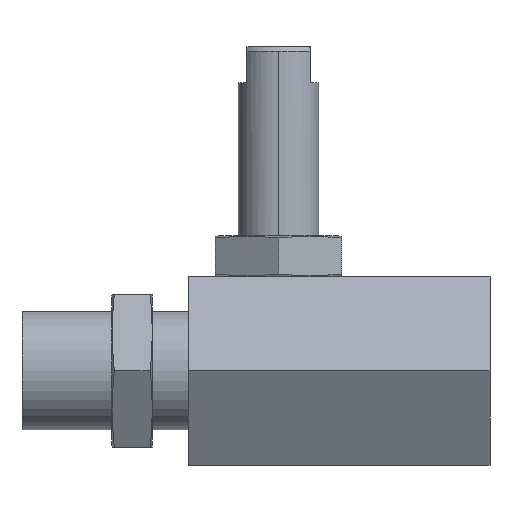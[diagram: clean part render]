
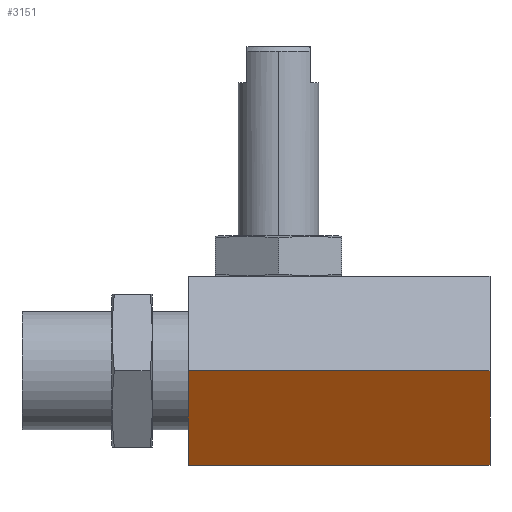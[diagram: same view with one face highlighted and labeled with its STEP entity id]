
A CAD part, left-side view. The second image highlights one B-rep face of the part: STEP entity #3151.
In plain terms, the highlighted planar face has unit normal (-0.866, 0, -0.5).
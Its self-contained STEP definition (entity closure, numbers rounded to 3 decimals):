
#124 = EDGE_LOOP ( 'NONE', ( #2351, #2350, #2349, #2348 ) ) ;
#285 = EDGE_CURVE ( 'NONE', #4343, #3990, #1416, .T. ) ;
#298 = EDGE_CURVE ( 'NONE', #4343, #4204, #1430, .T. ) ;
#302 = EDGE_CURVE ( 'NONE', #3990, #4287, #1440, .T. ) ;
#305 = EDGE_CURVE ( 'NONE', #4204, #4287, #1429, .T. ) ;
#708 = AXIS2_PLACEMENT_3D ( 'NONE', #2999, #2985, #2983 ) ;
#1000 = CARTESIAN_POINT ( 'NONE',  ( -6.062, 33.5, -10.5 ) ) ;
#1057 = CARTESIAN_POINT ( 'NONE',  ( -12.124, 0., 0. ) ) ;
#1131 = CARTESIAN_POINT ( 'NONE',  ( -6.062, 0., -10.5 ) ) ;
#1299 = CARTESIAN_POINT ( 'NONE',  ( -12.124, 33.5, 0. ) ) ;
#1416 = LINE ( 'NONE', #3887, #1417 ) ;
#1417 = VECTOR ( 'NONE', #3886, 1000. ) ;
#1429 = LINE ( 'NONE', #4052, #1446 ) ;
#1430 = LINE ( 'NONE', #3833, #1431 ) ;
#1431 = VECTOR ( 'NONE', #3830, 1000. ) ;
#1440 = LINE ( 'NONE', #4019, #1441 ) ;
#1441 = VECTOR ( 'NONE', #4375, 1000. ) ;
#1446 = VECTOR ( 'NONE', #4025, 1000. ) ;
#1868 = FACE_OUTER_BOUND ( 'NONE', #124, .T. ) ;
#2348 = ORIENTED_EDGE ( 'NONE', *, *, #298, .T. ) ;
#2349 = ORIENTED_EDGE ( 'NONE', *, *, #285, .F. ) ;
#2350 = ORIENTED_EDGE ( 'NONE', *, *, #302, .F. ) ;
#2351 = ORIENTED_EDGE ( 'NONE', *, *, #305, .T. ) ;
#2983 = DIRECTION ( 'NONE',  ( 0.5, 0., -0.866 ) ) ;
#2985 = DIRECTION ( 'NONE',  ( 0.866, 0., 0.5 ) ) ;
#2991 = PLANE ( 'NONE',  #708 ) ;
#2999 = CARTESIAN_POINT ( 'NONE',  ( -6.062, 33.5, -10.5 ) ) ;
#3151 = ADVANCED_FACE ( 'NONE', ( #1868 ), #2991, .F. ) ;
#3830 = DIRECTION ( 'NONE',  ( 0., -1., 0. ) ) ;
#3833 = CARTESIAN_POINT ( 'NONE',  ( -6.062, 33.5, -10.5 ) ) ;
#3886 = DIRECTION ( 'NONE',  ( -0.5, 0., 0.866 ) ) ;
#3887 = CARTESIAN_POINT ( 'NONE',  ( -6.062, 33.5, -10.5 ) ) ;
#3990 = VERTEX_POINT ( 'NONE', #1299 ) ;
#4019 = CARTESIAN_POINT ( 'NONE',  ( -12.124, 33.5, 0. ) ) ;
#4025 = DIRECTION ( 'NONE',  ( -0.5, 0., 0.866 ) ) ;
#4052 = CARTESIAN_POINT ( 'NONE',  ( -6.062, 0., -10.5 ) ) ;
#4204 = VERTEX_POINT ( 'NONE', #1131 ) ;
#4287 = VERTEX_POINT ( 'NONE', #1057 ) ;
#4343 = VERTEX_POINT ( 'NONE', #1000 ) ;
#4375 = DIRECTION ( 'NONE',  ( 0., -1., 0. ) ) ;
